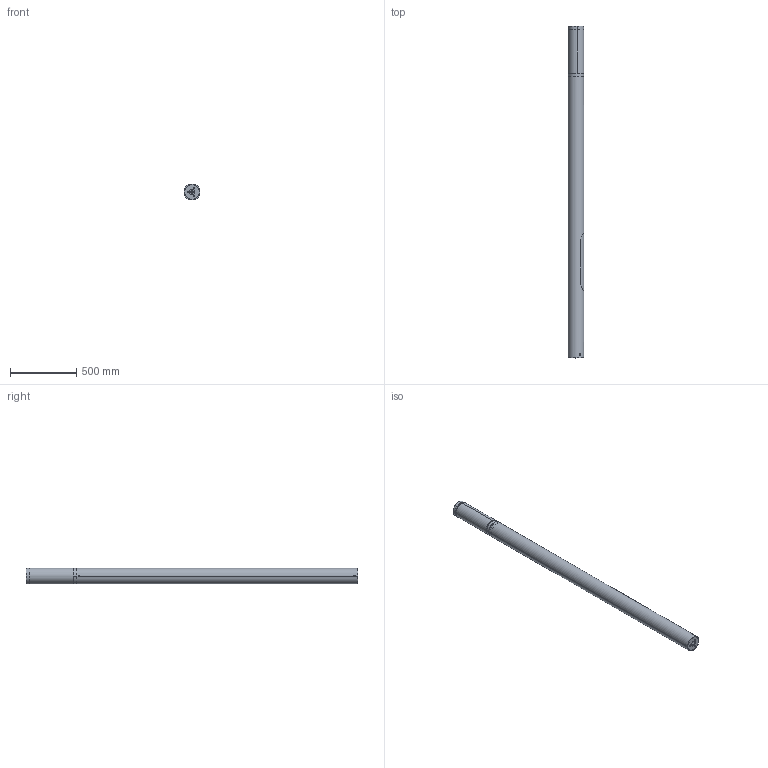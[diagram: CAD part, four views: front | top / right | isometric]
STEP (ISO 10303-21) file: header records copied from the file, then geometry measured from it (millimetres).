
FILE_DESCRIPTION (( 'STEP AP203' ), '1' );
FILE_NAME ('Egersund Pole.STEP', '2020-03-31T12:10:20', ( '' ), ( '' ), 'SwSTEP 2.0', 'SolidWorks 2019', '' );
FILE_SCHEMA (( 'CONFIG_CONTROL_DESIGN' ));
Length unit declared in the file: millimetre
Products named in the file (16): S｣UP 120_76_DRZWICZKI_rs_Obr｢bka W1; Egersund Pole; M88A-385-1-03 blacha podstawy w2_108w4; WKR STOZ IMB M6x_rs_M6 x 16; M124_Rura kom_rs_M168 Door; M124_D馧 kom_rs_M168; WKR STOZ IMB M4x_rs_x10; M124_Daszek kom_rs_Klosz 200%; M168_Rura spaw.sr_M168 Door; M88A-385-1-01 rura 120x5x691_M168 Door; M88A-385-1-06 klosz w2_M168 (Klosz 330) - obr｢bka; M124_G鏎a kom_rs_Egersund Pole k330; M88A-385-1-05w4 korpus klosza_M168; Uszczelka TDP samoprzylepna; M88A-385-1-11 daszek klosza w2_M124-obr; WKR STOZ IMB M5x_rs_x16
Assembly tree (19 placements, depth 4):
  Egersund Pole
    M124_G鏎a kom_rs_Egersund Pole k330
      M124_Daszek kom_rs_Klosz 200%
        M88A-385-1-11 daszek klosza w2_M124-obr
      M124_D馧 kom_rs_M168
        M88A-385-1-05w4 korpus klosza_M168
      M88A-385-1-06 klosz w2_M168 (Klosz 330) - obr｢bka
    M124_Rura kom_rs_M168 Door
      M168_Rura spaw.sr_M168 Door
        M88A-385-1-01 rura 120x5x691_M168 Door
      S｣UP 120_76_DRZWICZKI_rs_Obr｢bka W1
    WKR STOZ IMB M4x_rs_x10  x2
    Uszczelka TDP samoprzylepna
    M88A-385-1-03 blacha podstawy w2_108w4
    WKR STOZ IMB M6x_rs_M6 x 16  x3
    WKR STOZ IMB M5x_rs_x16  x2
Bounding box: 120.01 x 2499.03 x 120 mm (x, y, z)
Volume: 4570455.3 mm3; surface area: 1941645.3 mm2
Topology: 14 solids, 14 shells, 528 faces, 1251 edges, 720 vertices
Faces by surface type: plane 156, cylinder 151, cone 92, bspline 62, torus 43, sphere 24
Entity records: 21058 total; most frequent: CARTESIAN_POINT 9783, ORIENTED_EDGE 1998, DIRECTION 1964, EDGE_CURVE 999, AXIS2_PLACEMENT_3D 803, VERTEX_POINT 602, EDGE_LOOP 483, FACE_OUTER_BOUND 430
